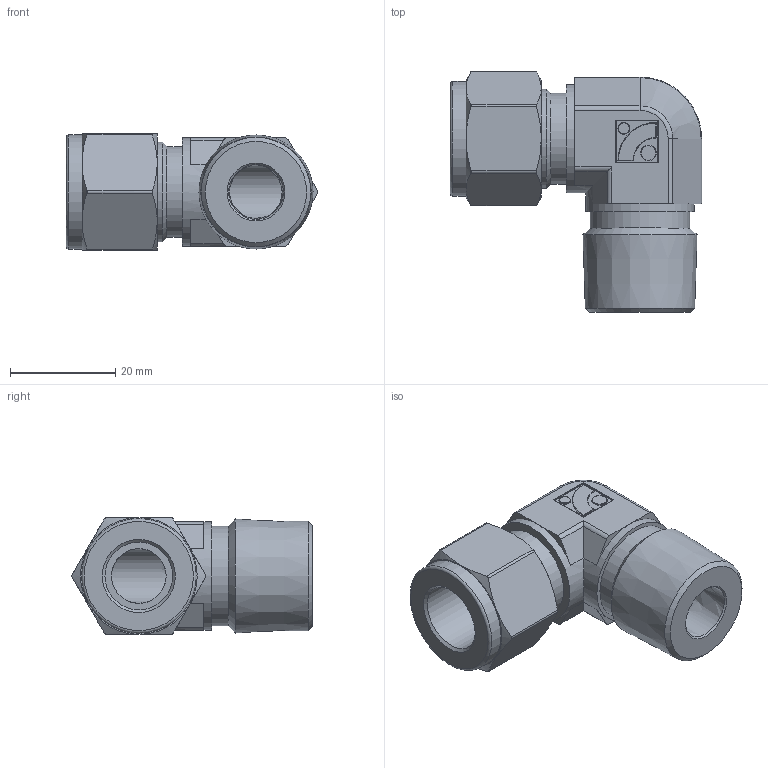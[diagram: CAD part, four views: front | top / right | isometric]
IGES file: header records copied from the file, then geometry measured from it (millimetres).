
Global section: file name: No Iges File Name specified; native system: Autodesk Inventor 2012; preprocessor: AutoDesk Inventor Iges Exporter R2012; author: 硅己绕,,1; organization: 1; date: 20150703.114244; units: millimetre
Bounding box: 47.84 x 45.75 x 22.22 mm (x, y, z)
Volume: 17713.7 mm3; surface area: 8030.7 mm2
Topology: 1 solids, 1 shells, 128 faces, 296 edges, 176 vertices
Faces by surface type: plane 43, cylinder 35, revolution 20, cone 18, torus 8, sphere 4
Full cylindrical faces by diameter (mm): 2.16 x1, 2.88 x1, 17.3 x1, 18.9 x1, 19 x1, 20.6 x2, 21.8 x1
